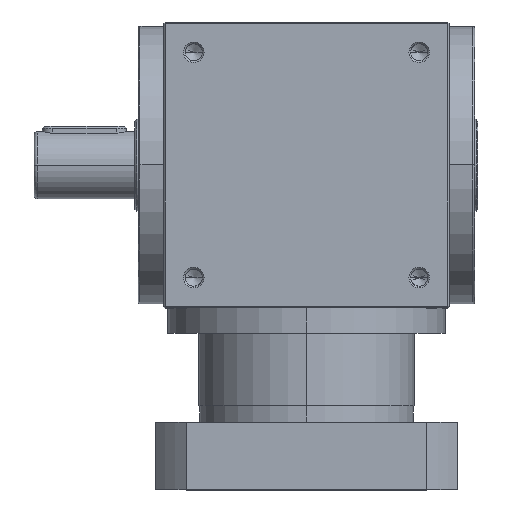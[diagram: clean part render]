
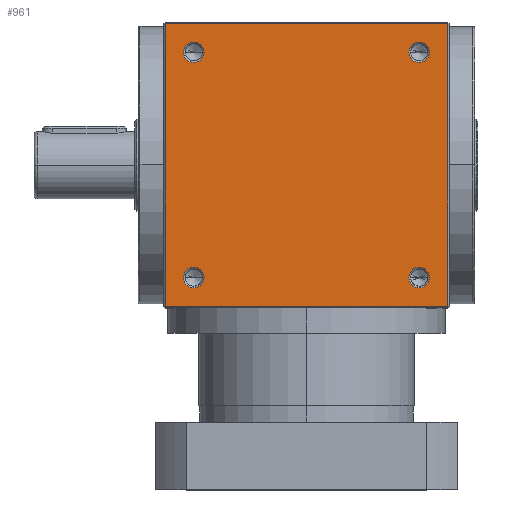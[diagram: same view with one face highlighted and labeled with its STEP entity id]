
A CAD part, top view. The second image highlights one B-rep face of the part: STEP entity #961.
In plain terms, the highlighted planar face has unit normal (0, 0, 1).
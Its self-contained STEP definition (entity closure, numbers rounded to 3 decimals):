
#41 = CARTESIAN_POINT ( 'NONE',  ( -60.9, 67., 85. ) ) ;
#119 = CARTESIAN_POINT ( 'NONE',  ( 60.9, -67., 85. ) ) ;
#218 = VERTEX_POINT ( 'NONE', #2089 ) ;
#332 = CIRCLE ( 'NONE', #691, 6.1 ) ;
#380 = ORIENTED_EDGE ( 'NONE', *, *, #678, .T. ) ;
#396 = CARTESIAN_POINT ( 'NONE',  ( -67., 67., 85. ) ) ;
#467 = AXIS2_PLACEMENT_3D ( 'NONE', #3500, #8900, #4207 ) ;
#488 = DIRECTION ( 'NONE',  ( 0., 0., -1. ) ) ;
#498 = DIRECTION ( 'NONE',  ( 0., -1., 0. ) ) ;
#578 = AXIS2_PLACEMENT_3D ( 'NONE', #6075, #3916, #3196 ) ;
#640 = CARTESIAN_POINT ( 'NONE',  ( -67., -67., 85. ) ) ;
#678 = EDGE_CURVE ( 'NONE', #5552, #7814, #4980, .T. ) ;
#691 = AXIS2_PLACEMENT_3D ( 'NONE', #7385, #3274, #8792 ) ;
#932 = EDGE_LOOP ( 'NONE', ( #4046, #8107, #1796, #7965 ) ) ;
#961 = ADVANCED_FACE ( 'NONE', ( #6565, #4749, #6773, #8053, #1461 ), #5771, .F. ) ;
#1101 = EDGE_CURVE ( 'NONE', #3839, #5657, #1449, .T. ) ;
#1163 = CARTESIAN_POINT ( 'NONE',  ( -73.1, 67., 85. ) ) ;
#1196 = CARTESIAN_POINT ( 'NONE',  ( 60.9, 67., 85. ) ) ;
#1249 = VERTEX_POINT ( 'NONE', #4728 ) ;
#1297 = EDGE_LOOP ( 'NONE', ( #2234, #6530 ) ) ;
#1449 = LINE ( 'NONE', #7357, #2324 ) ;
#1461 = FACE_OUTER_BOUND ( 'NONE', #932, .T. ) ;
#1466 = EDGE_CURVE ( 'NONE', #4924, #2979, #4088, .T. ) ;
#1535 = DIRECTION ( 'NONE',  ( 0., 0., -1. ) ) ;
#1613 = VECTOR ( 'NONE', #6027, 1000. ) ;
#1633 = DIRECTION ( 'NONE',  ( -1., 0., 0. ) ) ;
#1660 = DIRECTION ( 'NONE',  ( 0., 1., 0. ) ) ;
#1698 = CIRCLE ( 'NONE', #4604, 6.1 ) ;
#1796 = ORIENTED_EDGE ( 'NONE', *, *, #3331, .T. ) ;
#1929 = CARTESIAN_POINT ( 'NONE',  ( 0., 84., 85. ) ) ;
#1934 = CIRCLE ( 'NONE', #467, 6.1 ) ;
#1956 = CARTESIAN_POINT ( 'NONE',  ( 67., -67., 85. ) ) ;
#2089 = CARTESIAN_POINT ( 'NONE',  ( -73.1, -67., 85. ) ) ;
#2234 = ORIENTED_EDGE ( 'NONE', *, *, #1466, .T. ) ;
#2303 = CARTESIAN_POINT ( 'NONE',  ( 0., 0., 85. ) ) ;
#2324 = VECTOR ( 'NONE', #498, 1000. ) ;
#2470 = ORIENTED_EDGE ( 'NONE', *, *, #3843, .T. ) ;
#2514 = CARTESIAN_POINT ( 'NONE',  ( 67., 67., 85. ) ) ;
#2537 = DIRECTION ( 'NONE',  ( -1., 0., 0. ) ) ;
#2979 = VERTEX_POINT ( 'NONE', #119 ) ;
#3142 = LINE ( 'NONE', #5839, #4770 ) ;
#3196 = DIRECTION ( 'NONE',  ( -1., 0., 0. ) ) ;
#3227 = CARTESIAN_POINT ( 'NONE',  ( 67., -67., 85. ) ) ;
#3274 = DIRECTION ( 'NONE',  ( 0., 0., -1. ) ) ;
#3331 = EDGE_CURVE ( 'NONE', #8073, #1249, #3142, .T. ) ;
#3373 = DIRECTION ( 'NONE',  ( 0., 0., -1. ) ) ;
#3430 = DIRECTION ( 'NONE',  ( -1., 0., 0. ) ) ;
#3500 = CARTESIAN_POINT ( 'NONE',  ( 67., 67., 85. ) ) ;
#3510 = CARTESIAN_POINT ( 'NONE',  ( 84., -84., 85. ) ) ;
#3839 = VERTEX_POINT ( 'NONE', #4896 ) ;
#3843 = EDGE_CURVE ( 'NONE', #8043, #218, #4141, .T. ) ;
#3916 = DIRECTION ( 'NONE',  ( 0., 0., -1. ) ) ;
#3969 = EDGE_CURVE ( 'NONE', #2979, #4924, #1698, .T. ) ;
#3997 = DIRECTION ( 'NONE',  ( -1., 0., 0. ) ) ;
#3998 = ORIENTED_EDGE ( 'NONE', *, *, #5219, .T. ) ;
#4046 = ORIENTED_EDGE ( 'NONE', *, *, #1101, .T. ) ;
#4065 = DIRECTION ( 'NONE',  ( -1., 0., 0. ) ) ;
#4088 = CIRCLE ( 'NONE', #7373, 6.1 ) ;
#4141 = CIRCLE ( 'NONE', #7596, 6.1 ) ;
#4207 = DIRECTION ( 'NONE',  ( -1., 0., 0. ) ) ;
#4332 = CARTESIAN_POINT ( 'NONE',  ( -60.9, -67., 85. ) ) ;
#4347 = CIRCLE ( 'NONE', #7371, 6.1 ) ;
#4559 = EDGE_CURVE ( 'NONE', #1249, #3839, #5967, .T. ) ;
#4604 = AXIS2_PLACEMENT_3D ( 'NONE', #3227, #488, #3997 ) ;
#4695 = VERTEX_POINT ( 'NONE', #41 ) ;
#4728 = CARTESIAN_POINT ( 'NONE',  ( 84., 84., 85. ) ) ;
#4749 = FACE_BOUND ( 'NONE', #8631, .T. ) ;
#4761 = AXIS2_PLACEMENT_3D ( 'NONE', #2303, #1535, #6400 ) ;
#4765 = CARTESIAN_POINT ( 'NONE',  ( -84., -84., 85. ) ) ;
#4770 = VECTOR ( 'NONE', #1660, 1000. ) ;
#4775 = EDGE_CURVE ( 'NONE', #218, #8043, #332, .T. ) ;
#4896 = CARTESIAN_POINT ( 'NONE',  ( -84., 84., 85. ) ) ;
#4924 = VERTEX_POINT ( 'NONE', #5710 ) ;
#4980 = CIRCLE ( 'NONE', #7098, 6.1 ) ;
#5187 = CIRCLE ( 'NONE', #578, 6.1 ) ;
#5219 = EDGE_CURVE ( 'NONE', #7814, #5552, #1934, .T. ) ;
#5260 = DIRECTION ( 'NONE',  ( 0., 0., -1. ) ) ;
#5481 = VERTEX_POINT ( 'NONE', #1163 ) ;
#5552 = VERTEX_POINT ( 'NONE', #1196 ) ;
#5657 = VERTEX_POINT ( 'NONE', #4765 ) ;
#5710 = CARTESIAN_POINT ( 'NONE',  ( 73.1, -67., 85. ) ) ;
#5771 = PLANE ( 'NONE',  #4761 ) ;
#5839 = CARTESIAN_POINT ( 'NONE',  ( 84., 0., 85. ) ) ;
#5967 = LINE ( 'NONE', #1929, #8830 ) ;
#6027 = DIRECTION ( 'NONE',  ( 1., 0., 0. ) ) ;
#6075 = CARTESIAN_POINT ( 'NONE',  ( -67., 67., 85. ) ) ;
#6123 = EDGE_LOOP ( 'NONE', ( #6478, #8210 ) ) ;
#6262 = EDGE_LOOP ( 'NONE', ( #3998, #380 ) ) ;
#6289 = EDGE_CURVE ( 'NONE', #5657, #8073, #8510, .T. ) ;
#6400 = DIRECTION ( 'NONE',  ( -1., 0., 0. ) ) ;
#6478 = ORIENTED_EDGE ( 'NONE', *, *, #8378, .T. ) ;
#6530 = ORIENTED_EDGE ( 'NONE', *, *, #3969, .T. ) ;
#6565 = FACE_BOUND ( 'NONE', #1297, .T. ) ;
#6634 = CARTESIAN_POINT ( 'NONE',  ( 73.1, 67., 85. ) ) ;
#6740 = CARTESIAN_POINT ( 'NONE',  ( 0., -84., 85. ) ) ;
#6773 = FACE_BOUND ( 'NONE', #6262, .T. ) ;
#6857 = DIRECTION ( 'NONE',  ( 0., 0., -1. ) ) ;
#7098 = AXIS2_PLACEMENT_3D ( 'NONE', #2514, #7341, #2537 ) ;
#7341 = DIRECTION ( 'NONE',  ( 0., 0., -1. ) ) ;
#7344 = DIRECTION ( 'NONE',  ( -1., 0., 0. ) ) ;
#7357 = CARTESIAN_POINT ( 'NONE',  ( -84., 0., 85. ) ) ;
#7371 = AXIS2_PLACEMENT_3D ( 'NONE', #396, #5260, #7344 ) ;
#7373 = AXIS2_PLACEMENT_3D ( 'NONE', #1956, #3373, #3430 ) ;
#7385 = CARTESIAN_POINT ( 'NONE',  ( -67., -67., 85. ) ) ;
#7596 = AXIS2_PLACEMENT_3D ( 'NONE', #640, #6857, #1633 ) ;
#7814 = VERTEX_POINT ( 'NONE', #6634 ) ;
#7882 = EDGE_CURVE ( 'NONE', #5481, #4695, #5187, .T. ) ;
#7965 = ORIENTED_EDGE ( 'NONE', *, *, #4559, .T. ) ;
#8043 = VERTEX_POINT ( 'NONE', #4332 ) ;
#8053 = FACE_BOUND ( 'NONE', #6123, .T. ) ;
#8073 = VERTEX_POINT ( 'NONE', #3510 ) ;
#8107 = ORIENTED_EDGE ( 'NONE', *, *, #6289, .T. ) ;
#8210 = ORIENTED_EDGE ( 'NONE', *, *, #7882, .T. ) ;
#8378 = EDGE_CURVE ( 'NONE', #4695, #5481, #4347, .T. ) ;
#8479 = ORIENTED_EDGE ( 'NONE', *, *, #4775, .T. ) ;
#8510 = LINE ( 'NONE', #6740, #1613 ) ;
#8631 = EDGE_LOOP ( 'NONE', ( #2470, #8479 ) ) ;
#8792 = DIRECTION ( 'NONE',  ( -1., 0., 0. ) ) ;
#8830 = VECTOR ( 'NONE', #4065, 1000. ) ;
#8900 = DIRECTION ( 'NONE',  ( 0., 0., -1. ) ) ;
